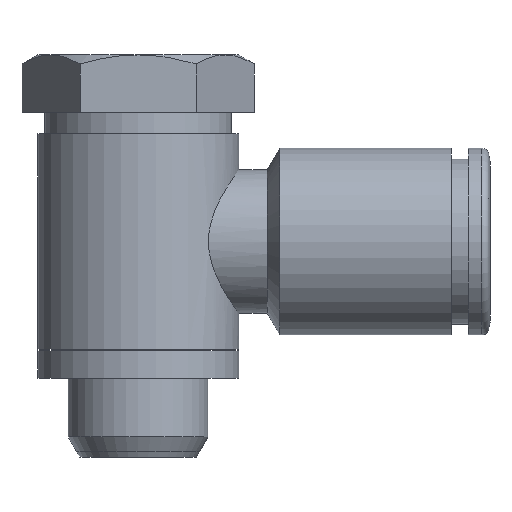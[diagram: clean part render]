
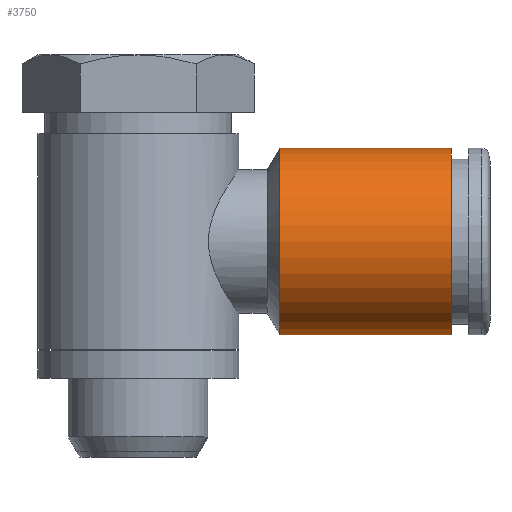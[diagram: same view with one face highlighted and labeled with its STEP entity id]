
A CAD part, front view. The second image highlights one B-rep face of the part: STEP entity #3750.
In plain terms, the highlighted cylindrical face has radius 6.5 mm (diameter 13 mm), a full revolution.
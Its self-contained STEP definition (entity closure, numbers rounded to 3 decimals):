
#3750=ADVANCED_FACE('', (#3760,#3770), #3780, .T.);
#10060=AXIS2_PLACEMENT_3D('Ax2Pl3d', #10070, #10080, #10090);
#11540=AXIS2_PLACEMENT_3D('Ax2Pl3d', #11550, #11560, #11570);
#11580=AXIS2_PLACEMENT_3D('Ax2Pl3d', #11590, #11600, #11610);
#10070=CARTESIAN_POINT('HicPkt', (44.221,20.343,
40.984));
#53340=CARTESIAN_POINT('', (44.221,20.343,34.484));
#11550=CARTESIAN_POINT('HicPkt', (32.287,20.343,
40.984));
#53530=CARTESIAN_POINT('', (32.287,20.343,34.484));
#11590=CARTESIAN_POINT('HicPkt', (44.221,20.343,
40.984));
#54230=CIRCLE('Circle', #10060, 6.5);
#54410=CIRCLE('Circle', #11540, 6.5);
#3780=CYLINDRICAL_SURFACE('Zyl', #11580, 6.5);
#10080=DIRECTION('Axis', (1.,0.,0.));
#10090=DIRECTION('RefDirection', (0.,0.,-1.));
#11560=DIRECTION('Axis', (1.,0.,0.));
#11570=DIRECTION('RefDirection', (0.,0.,-1.));
#11600=DIRECTION('Axis', (-1.,0.,0.)
);
#11610=DIRECTION('RefDirection', (0.,
0.,-1.));
#60960=EDGE_CURVE('', #60970, #60970, #54230, .T.);
#61350=EDGE_CURVE('', #61360, #61360, #54410, .T.);
#65590=EDGE_LOOP('Edge_loop', (#65600));
#65610=EDGE_LOOP('Edge_loop', (#65620));
#3770=FACE_BOUND('', #65610, .T.);
#3760=FACE_OUTER_BOUND('Face_outer_bound', #65590, .T.);
#65600=ORIENTED_EDGE('', *, *, #61350, .T.);
#65620=ORIENTED_EDGE('', *, *, #60960, .F.);
#60970=VERTEX_POINT('', #53340);
#61360=VERTEX_POINT('', #53530);
